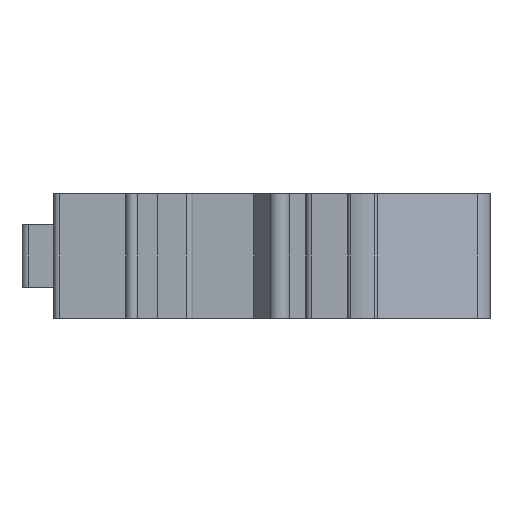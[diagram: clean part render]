
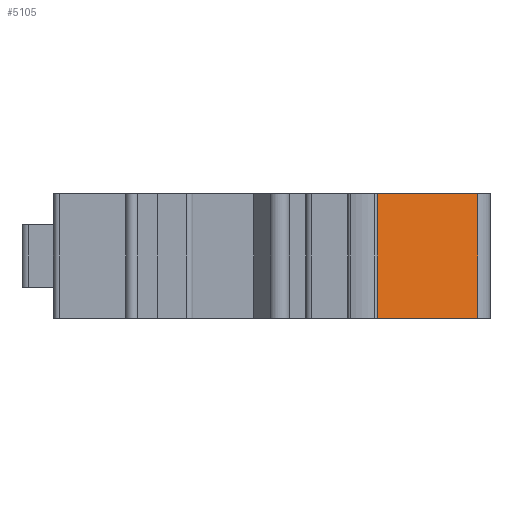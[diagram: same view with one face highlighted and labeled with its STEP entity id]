
A CAD part, front view. The second image highlights one B-rep face of the part: STEP entity #5105.
In plain terms, the highlighted planar face has unit normal (0.342, -0.94, 0).
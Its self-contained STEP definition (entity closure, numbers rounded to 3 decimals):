
#5105 = ADVANCED_FACE('',(#5106),#5120,.T.);
#5106 = FACE_BOUND('',#5107,.T.);
#5107 = EDGE_LOOP('',(#5108,#5131,#5147,#5163));
#5108 = ORIENTED_EDGE('',*,*,#5109,.T.);
#5109 = EDGE_CURVE('',#5110,#5112,#5114,.T.);
#5110 = VERTEX_POINT('',#5111);
#5111 = CARTESIAN_POINT('',(41.8,-83.4,-4.9));
#5112 = VERTEX_POINT('',#5113);
#5113 = CARTESIAN_POINT('',(41.8,-83.4,-24.9));
#5114 = SURFACE_CURVE('',#5115,(#5119),.PCURVE_S1.);
#5115 = LINE('',#5116,#5117);
#5116 = CARTESIAN_POINT('',(41.8,-83.4,-25.));
#5117 = VECTOR('',#5118,1.);
#5118 = DIRECTION('',(0.,0.,-1.));
#5119 = PCURVE('',#5120,#5125);
#5120 = PLANE('',#5121);
#5121 = AXIS2_PLACEMENT_3D('',#5122,#5123,#5124);
#5122 = CARTESIAN_POINT('',(41.8,-83.4,-4.8));
#5123 = DIRECTION('',(0.342,-0.94,0.
    ));
#5124 = DIRECTION('',(-0.94,-0.342,
    0.));
#5125 = DEFINITIONAL_REPRESENTATION('',(#5126),#5130);
#5126 = LINE('',#5127,#5128);
#5127 = CARTESIAN_POINT('',(0.,20.2));
#5128 = VECTOR('',#5129,1.);
#5129 = DIRECTION('',(0.,1.));
#5130 = ( GEOMETRIC_REPRESENTATION_CONTEXT(2) 
PARAMETRIC_REPRESENTATION_CONTEXT() REPRESENTATION_CONTEXT('2D SPACE',''
  ) );
#5131 = ORIENTED_EDGE('',*,*,#5132,.T.);
#5132 = EDGE_CURVE('',#5112,#5133,#5135,.T.);
#5133 = VERTEX_POINT('',#5134);
#5134 = CARTESIAN_POINT('',(58.426,-77.349,-24.9));
#5135 = SURFACE_CURVE('',#5136,(#5140),.PCURVE_S1.);
#5136 = LINE('',#5137,#5138);
#5137 = CARTESIAN_POINT('',(0.,-98.614,-24.9));
#5138 = VECTOR('',#5139,1.);
#5139 = DIRECTION('',(0.94,0.342,0.
    ));
#5140 = PCURVE('',#5120,#5141);
#5141 = DEFINITIONAL_REPRESENTATION('',(#5142),#5146);
#5142 = LINE('',#5143,#5144);
#5143 = CARTESIAN_POINT('',(44.483,20.1));
#5144 = VECTOR('',#5145,1.);
#5145 = DIRECTION('',(-1.,0.));
#5146 = ( GEOMETRIC_REPRESENTATION_CONTEXT(2) 
PARAMETRIC_REPRESENTATION_CONTEXT() REPRESENTATION_CONTEXT('2D SPACE',''
  ) );
#5147 = ORIENTED_EDGE('',*,*,#5148,.F.);
#5148 = EDGE_CURVE('',#5149,#5133,#5151,.T.);
#5149 = VERTEX_POINT('',#5150);
#5150 = CARTESIAN_POINT('',(58.426,-77.349,-4.9));
#5151 = SURFACE_CURVE('',#5152,(#5156),.PCURVE_S1.);
#5152 = LINE('',#5153,#5154);
#5153 = CARTESIAN_POINT('',(58.426,-77.349,-4.9));
#5154 = VECTOR('',#5155,1.);
#5155 = DIRECTION('',(0.,0.,-1.));
#5156 = PCURVE('',#5120,#5157);
#5157 = DEFINITIONAL_REPRESENTATION('',(#5158),#5162);
#5158 = LINE('',#5159,#5160);
#5159 = CARTESIAN_POINT('',(-17.693,0.1));
#5160 = VECTOR('',#5161,1.);
#5161 = DIRECTION('',(0.,1.));
#5162 = ( GEOMETRIC_REPRESENTATION_CONTEXT(2) 
PARAMETRIC_REPRESENTATION_CONTEXT() REPRESENTATION_CONTEXT('2D SPACE',''
  ) );
#5163 = ORIENTED_EDGE('',*,*,#5164,.F.);
#5164 = EDGE_CURVE('',#5110,#5149,#5165,.T.);
#5165 = SURFACE_CURVE('',#5166,(#5170),.PCURVE_S1.);
#5166 = LINE('',#5167,#5168);
#5167 = CARTESIAN_POINT('',(0.,-98.614,-4.9));
#5168 = VECTOR('',#5169,1.);
#5169 = DIRECTION('',(0.94,0.342,0.
    ));
#5170 = PCURVE('',#5120,#5171);
#5171 = DEFINITIONAL_REPRESENTATION('',(#5172),#5176);
#5172 = LINE('',#5173,#5174);
#5173 = CARTESIAN_POINT('',(44.483,0.1));
#5174 = VECTOR('',#5175,1.);
#5175 = DIRECTION('',(-1.,0.));
#5176 = ( GEOMETRIC_REPRESENTATION_CONTEXT(2) 
PARAMETRIC_REPRESENTATION_CONTEXT() REPRESENTATION_CONTEXT('2D SPACE',''
  ) );
